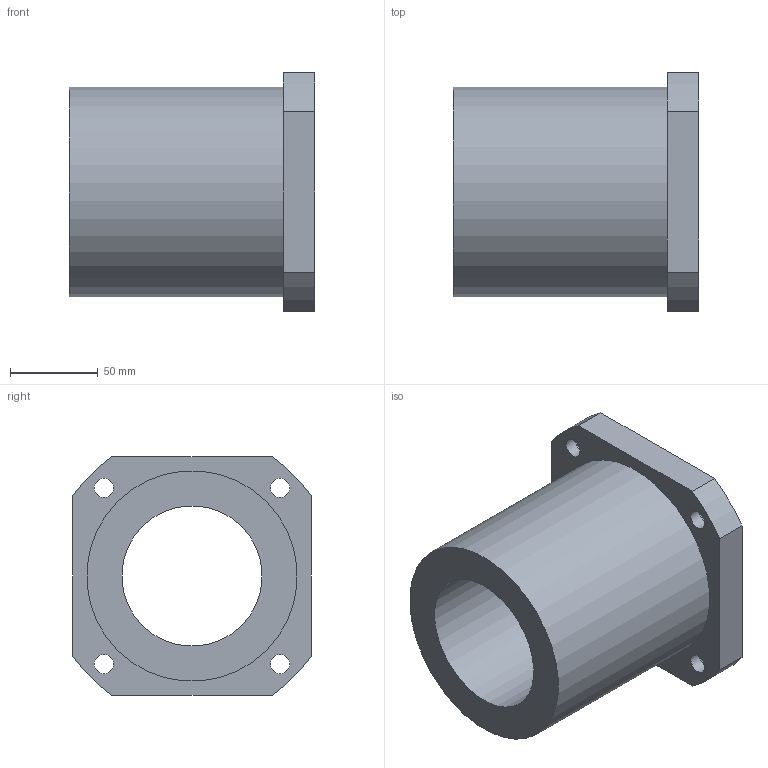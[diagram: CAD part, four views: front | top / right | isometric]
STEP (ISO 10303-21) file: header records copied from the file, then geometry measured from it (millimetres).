
FILE_DESCRIPTION(/* description */ (''),/* implementation_level */ '2;1');
FILE_NAME(/* name */ 'LMK80UU',/* time_stamp */ '2019-07-09T15:13:48+02:00',/* author */ ('VĂ©gh MĂˇtĂ©'),/* organization */ ('Bearing Kft'),/* preprocessor_version */ 'ST-DEVELOPER v16.7',/* originating_system */ 'DEX',/* authorisation */ $);
FILE_SCHEMA (('AUTOMOTIVE_DESIGN {1 0 10303 214 3 1 1}'));
Length unit declared in the file: millimetre
Products named in the file (1): LMK80UU
Bounding box: 140 x 136 x 136 mm (x, y, z)
Volume: 980850.3 mm3; surface area: 117897.3 mm2
Topology: 1 solids, 1 shells, 324 faces, 807 edges, 538 vertices
Faces by surface type: plane 247, bspline 62, cylinder 15
Full cylindrical faces by diameter (mm): 11 x4, 17 x4, 80 x1, 120 x1
Entity records: 13288 total; most frequent: CARTESIAN_POINT 5941, ORIENTED_EDGE 1584, DIRECTION 1224, EDGE_CURVE 792, LINE 638, VECTOR 638, VERTEX_POINT 538, EDGE_LOOP 402
